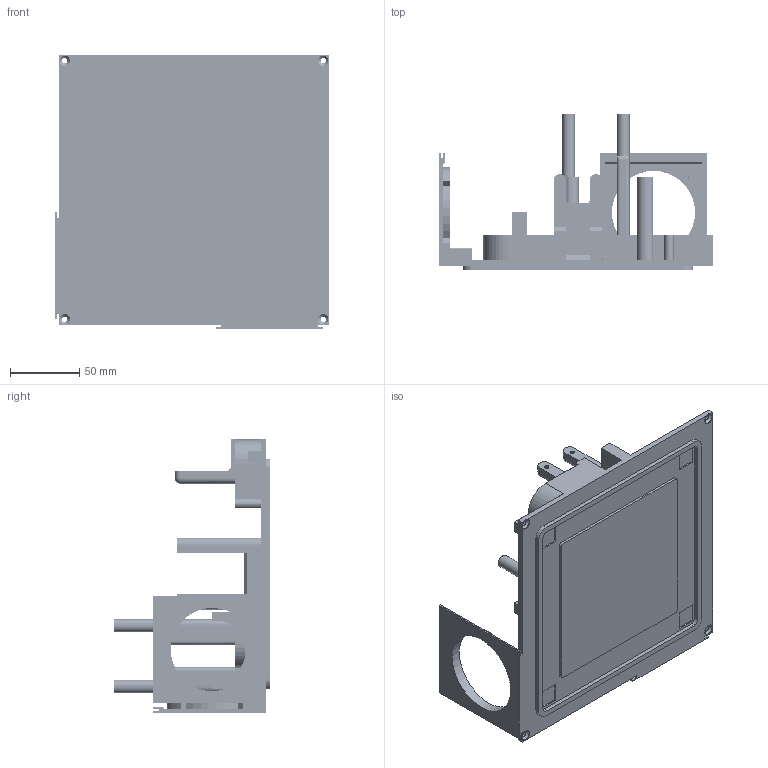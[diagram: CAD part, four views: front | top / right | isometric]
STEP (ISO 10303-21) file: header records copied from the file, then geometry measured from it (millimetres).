
FILE_DESCRIPTION(/* description */ (''),/* implementation_level */ '2;1');
FILE_NAME(/* name */ '/Users/valerian/Desktop/Pneumatics Stage.step',/* time_stamp */ '2020-11-22T20:24:00+01:00',/* author */ (''),/* organization */ (''),/* preprocessor_version */ 'ST-DEVELOPER v18.1',/* originating_system */ 'Autodesk Translation Framework v9.3.0.1241',/* authorisation */ '');
FILE_SCHEMA (('AUTOMOTIVE_DESIGN { 1 0 10303 214 3 1 1 }'));
Products named in the file (1): Pneumatics Stage
Bounding box: 197.15 x 113 x 197.15 mm (x, y, z)
Volume: 375125 mm3; surface area: 151323.1 mm2
Topology: 1 solids, 1 shells, 1073 faces, 3033 edges, 2004 vertices
Faces by surface type: cylinder 728, plane 262, bspline 61, cone 10, torus 8, sphere 4
Full cylindrical faces by diameter (mm): 2.529 x64, 3.086 x28, 3.332 x56, 4 x4, 4.109 x23, 4.11 x1, 4.234 x8, 5.035 x16, 5.12 x4, 6.147 x16, 7.5 x4, 9.2 x2, 60 x2
Entity records: 75710 total; most frequent: CARTESIAN_POINT 50566, ORIENTED_EDGE 6066, DIRECTION 3948, EDGE_CURVE 3033, VERTEX_POINT 2004, B_SPLINE_CURVE_WITH_KNOTS 1423, AXIS2_PLACEMENT_3D 1325, LINE 1298
